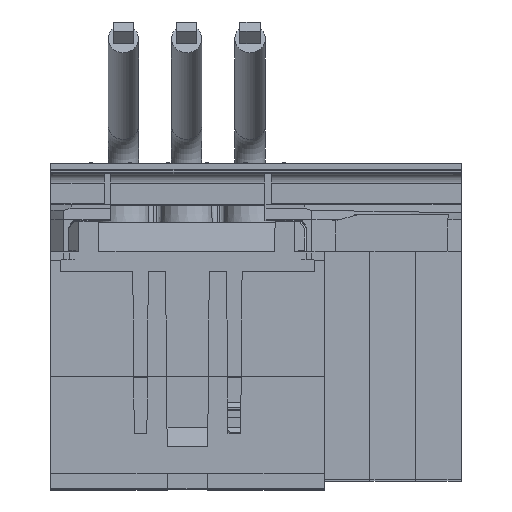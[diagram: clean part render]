
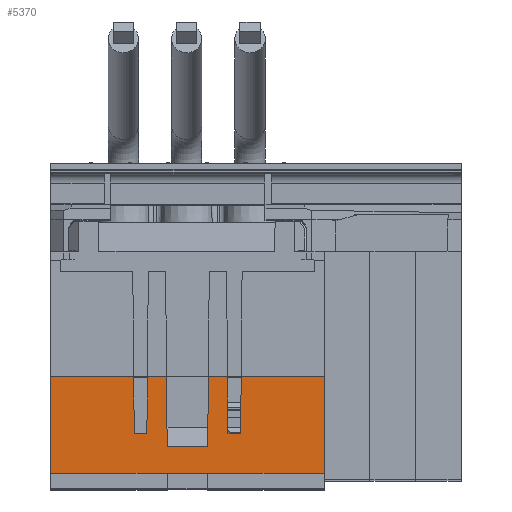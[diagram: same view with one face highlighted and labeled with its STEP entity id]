
A CAD part, top view. The second image highlights one B-rep face of the part: STEP entity #5370.
In plain terms, the highlighted planar face has unit normal (0, -0.009, 1).
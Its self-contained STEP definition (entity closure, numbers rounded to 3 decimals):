
#373 = ORIENTED_EDGE ( 'NONE', *, *, #64638, .F. ) ;
#889 = DIRECTION ( 'NONE',  ( -0.009, -1., -0.009 ) ) ;
#2315 = DIRECTION ( 'NONE',  ( -0.009, 1., 0.009 ) ) ;
#2775 = EDGE_CURVE ( 'NONE', #105624, #58956, #106430, .T. ) ;
#2970 = VECTOR ( 'NONE', #27783, 1000. ) ;
#3104 = CARTESIAN_POINT ( 'NONE',  ( 27., -23.5, 199.833 ) ) ;
#3570 = LINE ( 'NONE', #35260, #47057 ) ;
#4767 = CARTESIAN_POINT ( 'NONE',  ( -26., -4.5, 199.999 ) ) ;
#5370 = ADVANCED_FACE ( 'NONE', ( #83580 ), #77508, .T. ) ;
#5422 = CARTESIAN_POINT ( 'NONE',  ( -26., -4.5, 199.999 ) ) ;
#6296 = ORIENTED_EDGE ( 'NONE', *, *, #59452, .T. ) ;
#8745 = EDGE_CURVE ( 'NONE', #96477, #82495, #9930, .T. ) ;
#8987 = ORIENTED_EDGE ( 'NONE', *, *, #2775, .T. ) ;
#9686 = CARTESIAN_POINT ( 'NONE',  ( 27., -4.5, 199.999 ) ) ;
#9930 = LINE ( 'NONE', #82617, #71797 ) ;
#10088 = CARTESIAN_POINT ( 'NONE',  ( 10.778, 16.2, 200.18 ) ) ;
#12040 = LINE ( 'NONE', #73264, #98903 ) ;
#12369 = CARTESIAN_POINT ( 'NONE',  ( -4.003, -18.18, 199.88 ) ) ;
#13033 = VERTEX_POINT ( 'NONE', #3104 ) ;
#13074 = LINE ( 'NONE', #74044, #32806 ) ;
#13527 = DIRECTION ( 'NONE',  ( 1., 0., 0. ) ) ;
#14579 = CARTESIAN_POINT ( 'NONE',  ( -26., -15.7, 199.902 ) ) ;
#16524 = CARTESIAN_POINT ( 'NONE',  ( -7.902, -4.5, 199.999 ) ) ;
#17054 = DIRECTION ( 'NONE',  ( 1., 0., 0. ) ) ;
#17453 = LINE ( 'NONE', #103921, #60932 ) ;
#17604 = CARTESIAN_POINT ( 'NONE',  ( 4.122, -4.5, 199.999 ) ) ;
#17648 = CARTESIAN_POINT ( 'NONE',  ( -10.598, -4.5, 199.999 ) ) ;
#18678 = CARTESIAN_POINT ( 'NONE',  ( -26., 18.5, 200.2 ) ) ;
#19750 = DIRECTION ( 'NONE',  ( 1., 0., 0. ) ) ;
#20014 = EDGE_CURVE ( 'NONE', #61181, #46266, #32001, .T. ) ;
#20359 = DIRECTION ( 'NONE',  ( -0.009, -1., -0.009 ) ) ;
#21475 = ORIENTED_EDGE ( 'NONE', *, *, #70357, .T. ) ;
#23568 = ORIENTED_EDGE ( 'NONE', *, *, #50957, .T. ) ;
#24712 = VERTEX_POINT ( 'NONE', #74437 ) ;
#25057 = EDGE_CURVE ( 'NONE', #64339, #93091, #63457, .T. ) ;
#25602 = VERTEX_POINT ( 'NONE', #17648 ) ;
#26185 = ORIENTED_EDGE ( 'NONE', *, *, #66139, .F. ) ;
#27151 = DIRECTION ( 'NONE',  ( 0., -0.009, 1. ) ) ;
#27783 = DIRECTION ( 'NONE',  ( -0.009, 1., 0.009 ) ) ;
#28039 = EDGE_CURVE ( 'NONE', #58609, #24712, #38015, .T. ) ;
#28064 = ORIENTED_EDGE ( 'NONE', *, *, #65687, .T. ) ;
#28527 = CARTESIAN_POINT ( 'NONE',  ( 8., -15.7, 199.902 ) ) ;
#31497 = DIRECTION ( 'NONE',  ( -1., 0., 0. ) ) ;
#32001 = LINE ( 'NONE', #61165, #58251 ) ;
#32449 = EDGE_CURVE ( 'NONE', #105624, #81499, #75042, .T. ) ;
#32754 = VECTOR ( 'NONE', #93005, 1000. ) ;
#32761 = EDGE_LOOP ( 'NONE', ( #86663, #50770, #51436, #21475, #93676, #23568, #63829, #8987, #28064, #84390, #26185, #48077, #52940, #40465, #373, #42693, #6296, #50838 ) ) ;
#32806 = VECTOR ( 'NONE', #17054, 1000. ) ;
#34292 = EDGE_CURVE ( 'NONE', #83766, #69122, #74835, .T. ) ;
#35254 = VECTOR ( 'NONE', #20359, 1000. ) ;
#35260 = CARTESIAN_POINT ( 'NONE',  ( -26., -15.7, 199.902 ) ) ;
#35790 = CARTESIAN_POINT ( 'NONE',  ( -4.003, -18.18, 199.88 ) ) ;
#35911 = VECTOR ( 'NONE', #2315, 1000. ) ;
#37638 = LINE ( 'NONE', #97094, #90324 ) ;
#38015 = LINE ( 'NONE', #92283, #32754 ) ;
#40465 = ORIENTED_EDGE ( 'NONE', *, *, #25057, .T. ) ;
#42693 = ORIENTED_EDGE ( 'NONE', *, *, #34292, .T. ) ;
#42791 = DIRECTION ( 'NONE',  ( 1., 0., 0. ) ) ;
#43040 = VECTOR ( 'NONE', #19750, 1000. ) ;
#43073 = EDGE_CURVE ( 'NONE', #80955, #25602, #72765, .T. ) ;
#44010 = CARTESIAN_POINT ( 'NONE',  ( -26., -4.5, 199.999 ) ) ;
#44435 = DIRECTION ( 'NONE',  ( -1., 0., 0. ) ) ;
#45021 = CARTESIAN_POINT ( 'NONE',  ( -10.5, -15.7, 199.902 ) ) ;
#46266 = VERTEX_POINT ( 'NONE', #77047 ) ;
#47057 = VECTOR ( 'NONE', #44435, 1000. ) ;
#47360 = CARTESIAN_POINT ( 'NONE',  ( -4.122, -4.5, 199.999 ) ) ;
#48077 = ORIENTED_EDGE ( 'NONE', *, *, #20014, .T. ) ;
#48252 = LINE ( 'NONE', #5422, #99567 ) ;
#49855 = VECTOR ( 'NONE', #889, 1000. ) ;
#50770 = ORIENTED_EDGE ( 'NONE', *, *, #80518, .T. ) ;
#50838 = ORIENTED_EDGE ( 'NONE', *, *, #43073, .T. ) ;
#50957 = EDGE_CURVE ( 'NONE', #13033, #81499, #37638, .T. ) ;
#51436 = ORIENTED_EDGE ( 'NONE', *, *, #28039, .T. ) ;
#52940 = ORIENTED_EDGE ( 'NONE', *, *, #54051, .T. ) ;
#54051 = EDGE_CURVE ( 'NONE', #46266, #64339, #83136, .T. ) ;
#55109 = VECTOR ( 'NONE', #42791, 1000. ) ;
#55120 = VERTEX_POINT ( 'NONE', #88144 ) ;
#55720 = CARTESIAN_POINT ( 'NONE',  ( 10.598, -4.5, 199.999 ) ) ;
#58251 = VECTOR ( 'NONE', #101663, 1000. ) ;
#58609 = VERTEX_POINT ( 'NONE', #86084 ) ;
#58956 = VERTEX_POINT ( 'NONE', #108818 ) ;
#59452 = EDGE_CURVE ( 'NONE', #69122, #80955, #90732, .T. ) ;
#60060 = CARTESIAN_POINT ( 'NONE',  ( -26., -4.5, 199.999 ) ) ;
#60932 = VECTOR ( 'NONE', #104641, 1000. ) ;
#61165 = CARTESIAN_POINT ( 'NONE',  ( 4.303, 16.2, 200.18 ) ) ;
#61181 = VERTEX_POINT ( 'NONE', #17604 ) ;
#61690 = DIRECTION ( 'NONE',  ( 0., -1., -0.009 ) ) ;
#63457 = LINE ( 'NONE', #35790, #35911 ) ;
#63829 = ORIENTED_EDGE ( 'NONE', *, *, #32449, .F. ) ;
#64339 = VERTEX_POINT ( 'NONE', #12369 ) ;
#64638 = EDGE_CURVE ( 'NONE', #83766, #93091, #77470, .T. ) ;
#65446 = LINE ( 'NONE', #44010, #43040 ) ;
#65687 = EDGE_CURVE ( 'NONE', #58956, #96477, #3570, .T. ) ;
#66139 = EDGE_CURVE ( 'NONE', #61181, #82495, #48252, .T. ) ;
#69122 = VERTEX_POINT ( 'NONE', #76759 ) ;
#70357 = EDGE_CURVE ( 'NONE', #24712, #55120, #13074, .T. ) ;
#71797 = VECTOR ( 'NONE', #108012, 1000. ) ;
#72765 = LINE ( 'NONE', #103520, #2970 ) ;
#73046 = EDGE_CURVE ( 'NONE', #88930, #25602, #65446, .T. ) ;
#73264 = CARTESIAN_POINT ( 'NONE',  ( -26., -23.5, 199.833 ) ) ;
#73288 = CARTESIAN_POINT ( 'NONE',  ( -26., -18.18, 199.88 ) ) ;
#74044 = CARTESIAN_POINT ( 'NONE',  ( -26., -23.5, 199.833 ) ) ;
#74437 = CARTESIAN_POINT ( 'NONE',  ( -4., -23.5, 199.833 ) ) ;
#74835 = LINE ( 'NONE', #87316, #35254 ) ;
#75042 = LINE ( 'NONE', #4767, #81694 ) ;
#75691 = AXIS2_PLACEMENT_3D ( 'NONE', #18678, #27151, #61690 ) ;
#76759 = CARTESIAN_POINT ( 'NONE',  ( -8., -15.7, 199.902 ) ) ;
#77047 = CARTESIAN_POINT ( 'NONE',  ( 4.003, -18.18, 199.88 ) ) ;
#77470 = LINE ( 'NONE', #60060, #55109 ) ;
#77508 = PLANE ( 'NONE',  #75691 ) ;
#79225 = VECTOR ( 'NONE', #98698, 1000. ) ;
#80518 = EDGE_CURVE ( 'NONE', #88930, #58609, #17453, .T. ) ;
#80955 = VERTEX_POINT ( 'NONE', #45021 ) ;
#81499 = VERTEX_POINT ( 'NONE', #9686 ) ;
#81694 = VECTOR ( 'NONE', #95683, 1000. ) ;
#82495 = VERTEX_POINT ( 'NONE', #106068 ) ;
#82617 = CARTESIAN_POINT ( 'NONE',  ( 8., -15.7, 199.902 ) ) ;
#83136 = LINE ( 'NONE', #73288, #79225 ) ;
#83580 = FACE_OUTER_BOUND ( 'NONE', #32761, .T. ) ;
#83766 = VERTEX_POINT ( 'NONE', #16524 ) ;
#84390 = ORIENTED_EDGE ( 'NONE', *, *, #8745, .T. ) ;
#86084 = CARTESIAN_POINT ( 'NONE',  ( -27., -23.5, 199.833 ) ) ;
#86663 = ORIENTED_EDGE ( 'NONE', *, *, #73046, .F. ) ;
#87316 = CARTESIAN_POINT ( 'NONE',  ( -7.722, 16.2, 200.18 ) ) ;
#88144 = CARTESIAN_POINT ( 'NONE',  ( 4., -23.5, 199.833 ) ) ;
#88930 = VERTEX_POINT ( 'NONE', #94264 ) ;
#90081 = DIRECTION ( 'NONE',  ( 0., 1., 0.009 ) ) ;
#90324 = VECTOR ( 'NONE', #90081, 1000. ) ;
#90732 = LINE ( 'NONE', #14579, #102538 ) ;
#92283 = CARTESIAN_POINT ( 'NONE',  ( 4., -23.5, 199.833 ) ) ;
#93005 = DIRECTION ( 'NONE',  ( 1., 0., 0. ) ) ;
#93091 = VERTEX_POINT ( 'NONE', #47360 ) ;
#93676 = ORIENTED_EDGE ( 'NONE', *, *, #99083, .T. ) ;
#94264 = CARTESIAN_POINT ( 'NONE',  ( -27., -4.5, 199.999 ) ) ;
#95683 = DIRECTION ( 'NONE',  ( 1., 0., 0. ) ) ;
#96477 = VERTEX_POINT ( 'NONE', #28527 ) ;
#97094 = CARTESIAN_POINT ( 'NONE',  ( 27., 18.5, 200.2 ) ) ;
#98665 = DIRECTION ( 'NONE',  ( 1., 0., 0. ) ) ;
#98698 = DIRECTION ( 'NONE',  ( -1., 0., 0. ) ) ;
#98903 = VECTOR ( 'NONE', #98665, 1000. ) ;
#99083 = EDGE_CURVE ( 'NONE', #55120, #13033, #12040, .T. ) ;
#99567 = VECTOR ( 'NONE', #13527, 1000. ) ;
#101663 = DIRECTION ( 'NONE',  ( -0.009, -1., -0.009 ) ) ;
#102538 = VECTOR ( 'NONE', #31497, 1000. ) ;
#103520 = CARTESIAN_POINT ( 'NONE',  ( -10.5, -15.7, 199.902 ) ) ;
#103921 = CARTESIAN_POINT ( 'NONE',  ( -27., 18.5, 200.2 ) ) ;
#104641 = DIRECTION ( 'NONE',  ( 0., -1., -0.009 ) ) ;
#105624 = VERTEX_POINT ( 'NONE', #55720 ) ;
#106068 = CARTESIAN_POINT ( 'NONE',  ( 7.902, -4.5, 199.999 ) ) ;
#106430 = LINE ( 'NONE', #10088, #49855 ) ;
#108012 = DIRECTION ( 'NONE',  ( -0.009, 1., 0.009 ) ) ;
#108818 = CARTESIAN_POINT ( 'NONE',  ( 10.5, -15.7, 199.902 ) ) ;
